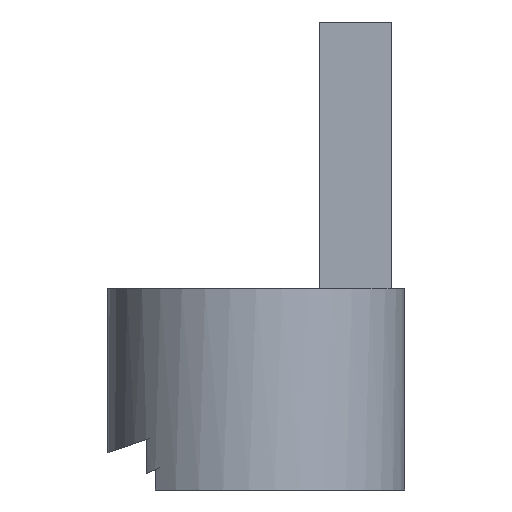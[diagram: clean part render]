
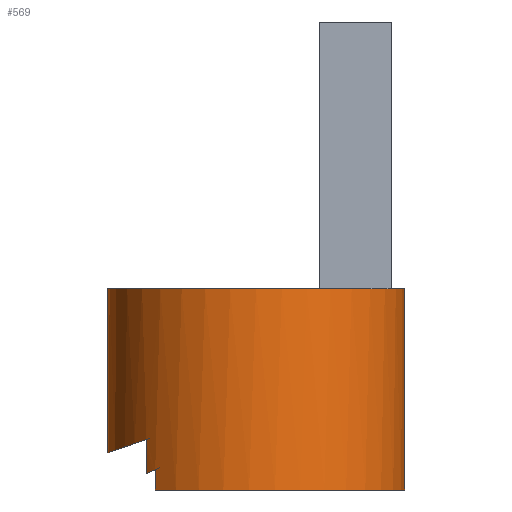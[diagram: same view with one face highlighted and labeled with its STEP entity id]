
A CAD part, front view. The second image highlights one B-rep face of the part: STEP entity #569.
In plain terms, the highlighted cylindrical face has radius 3.4 mm (diameter 6.8 mm), a full revolution.
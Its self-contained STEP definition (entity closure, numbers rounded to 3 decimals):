
#31=CYLINDRICAL_SURFACE('',#628,3.4);
#35=CIRCLE('',#613,3.4);
#44=CIRCLE('',#629,3.4);
#45=CIRCLE('',#631,3.4);
#52=ELLIPSE('',#605,3.598,3.4);
#53=ELLIPSE('',#606,3.598,3.4);
#58=ELLIPSE('',#630,3.711,3.4);
#70=FACE_OUTER_BOUND('',#100,.T.);
#100=EDGE_LOOP('',(#446,#447,#448,#449,#450,#451,#452,#453,#454,#455,#456,
#457));
#134=LINE('',#857,#187);
#146=LINE('',#959,#199);
#154=LINE('',#1085,#207);
#155=LINE('',#1089,#208);
#156=LINE('',#1092,#209);
#187=VECTOR('',#689,1.);
#199=VECTOR('',#715,1.);
#207=VECTOR('',#745,3.4);
#208=VECTOR('',#748,1.);
#209=VECTOR('',#751,1.);
#235=VERTEX_POINT('',#836);
#237=VERTEX_POINT('',#839);
#238=VERTEX_POINT('',#841);
#244=VERTEX_POINT('',#856);
#245=VERTEX_POINT('',#860);
#258=VERTEX_POINT('',#956);
#270=VERTEX_POINT('',#1083);
#271=VERTEX_POINT('',#1086);
#272=VERTEX_POINT('',#1088);
#273=VERTEX_POINT('',#1090);
#293=EDGE_CURVE('',#237,#235,#52,.T.);
#294=EDGE_CURVE('',#238,#237,#53,.T.);
#302=EDGE_CURVE('',#238,#244,#134,.T.);
#304=EDGE_CURVE('',#245,#244,#35,.T.);
#320=EDGE_CURVE('',#258,#235,#146,.T.);
#338=EDGE_CURVE('',#270,#270,#44,.T.);
#339=EDGE_CURVE('',#270,#237,#154,.T.);
#340=EDGE_CURVE('',#271,#258,#58,.T.);
#341=EDGE_CURVE('',#272,#271,#155,.T.);
#342=EDGE_CURVE('',#272,#273,#45,.T.);
#343=EDGE_CURVE('',#273,#245,#156,.T.);
#446=ORIENTED_EDGE('',*,*,#338,.F.);
#447=ORIENTED_EDGE('',*,*,#339,.T.);
#448=ORIENTED_EDGE('',*,*,#293,.T.);
#449=ORIENTED_EDGE('',*,*,#320,.F.);
#450=ORIENTED_EDGE('',*,*,#340,.F.);
#451=ORIENTED_EDGE('',*,*,#341,.F.);
#452=ORIENTED_EDGE('',*,*,#342,.T.);
#453=ORIENTED_EDGE('',*,*,#343,.T.);
#454=ORIENTED_EDGE('',*,*,#304,.T.);
#455=ORIENTED_EDGE('',*,*,#302,.F.);
#456=ORIENTED_EDGE('',*,*,#294,.T.);
#457=ORIENTED_EDGE('',*,*,#339,.F.);
#569=ADVANCED_FACE('',(#70),#31,.T.);
#605=AXIS2_PLACEMENT_3D('',#840,#672,#673);
#606=AXIS2_PLACEMENT_3D('',#842,#674,#675);
#613=AXIS2_PLACEMENT_3D('',#861,#693,#694);
#628=AXIS2_PLACEMENT_3D('',#1082,#741,#742);
#629=AXIS2_PLACEMENT_3D('',#1084,#743,#744);
#630=AXIS2_PLACEMENT_3D('',#1087,#746,#747);
#631=AXIS2_PLACEMENT_3D('',#1091,#749,#750);
#672=DIRECTION('center_axis',(-0.327,0.,0.945));
#673=DIRECTION('ref_axis',(0.945,0.,0.327));
#674=DIRECTION('center_axis',(-0.327,0.,0.945));
#675=DIRECTION('ref_axis',(0.945,0.,0.327));
#689=DIRECTION('',(0.,0.,1.));
#693=DIRECTION('center_axis',(0.,0.,1.));
#694=DIRECTION('ref_axis',(1.,0.,0.));
#715=DIRECTION('',(0.,0.,1.));
#741=DIRECTION('center_axis',(0.,0.,1.));
#742=DIRECTION('ref_axis',(1.,0.,0.));
#743=DIRECTION('center_axis',(0.,0.,1.));
#744=DIRECTION('ref_axis',(1.,0.,0.));
#745=DIRECTION('',(0.,0.,-1.));
#746=DIRECTION('center_axis',(0.401,0.,-0.916));
#747=DIRECTION('ref_axis',(0.916,0.,0.401));
#748=DIRECTION('',(0.,0.,1.));
#749=DIRECTION('center_axis',(0.,0.,1.));
#750=DIRECTION('ref_axis',(1.,0.,0.));
#751=DIRECTION('',(0.,0.,1.));
#836=CARTESIAN_POINT('',(-37.504,22.7,-16.943));
#839=CARTESIAN_POINT('',(-38.4,25.,-17.253));
#840=CARTESIAN_POINT('Origin',(-35.,25.,-16.077));
#841=CARTESIAN_POINT('',(-37.304,27.5,-16.874));
#842=CARTESIAN_POINT('Origin',(-35.,25.,-16.077));
#856=CARTESIAN_POINT('',(-37.304,27.5,-16.6));
#857=CARTESIAN_POINT('',(-37.304,27.5,-18.1));
#860=CARTESIAN_POINT('',(-32.696,27.5,-16.6));
#861=CARTESIAN_POINT('Origin',(-35.,25.,-16.6));
#956=CARTESIAN_POINT('',(-37.504,22.7,-17.723));
#959=CARTESIAN_POINT('',(-37.504,22.7,-18.1));
#1082=CARTESIAN_POINT('Origin',(-35.,25.,-18.1));
#1083=CARTESIAN_POINT('',(-38.4,25.,-13.5));
#1084=CARTESIAN_POINT('Origin',(-35.,25.,-13.5));
#1085=CARTESIAN_POINT('',(-38.4,25.,-18.1));
#1086=CARTESIAN_POINT('',(-37.304,22.5,-17.635));
#1087=CARTESIAN_POINT('Origin',(-35.,25.,-16.626));
#1088=CARTESIAN_POINT('',(-37.304,22.5,-18.1));
#1089=CARTESIAN_POINT('',(-37.304,22.5,-18.1));
#1090=CARTESIAN_POINT('',(-32.696,27.5,-18.1));
#1091=CARTESIAN_POINT('Origin',(-35.,25.,-18.1));
#1092=CARTESIAN_POINT('',(-32.696,27.5,-18.1));
